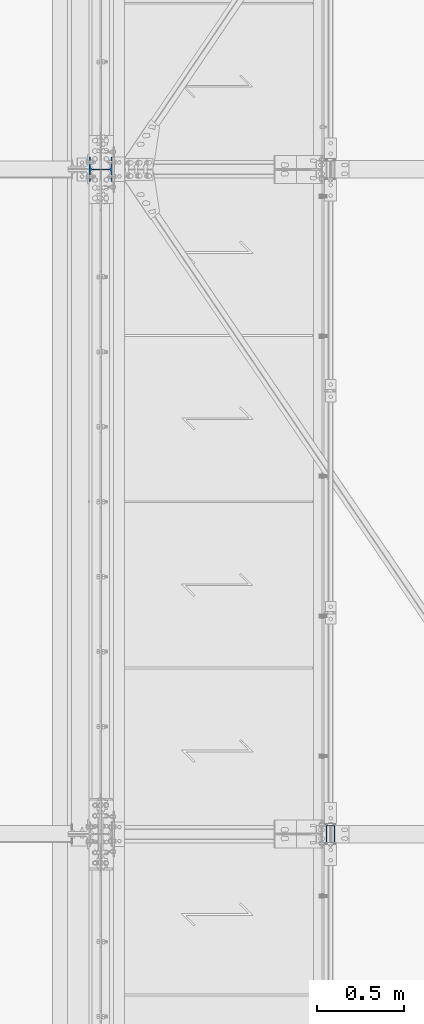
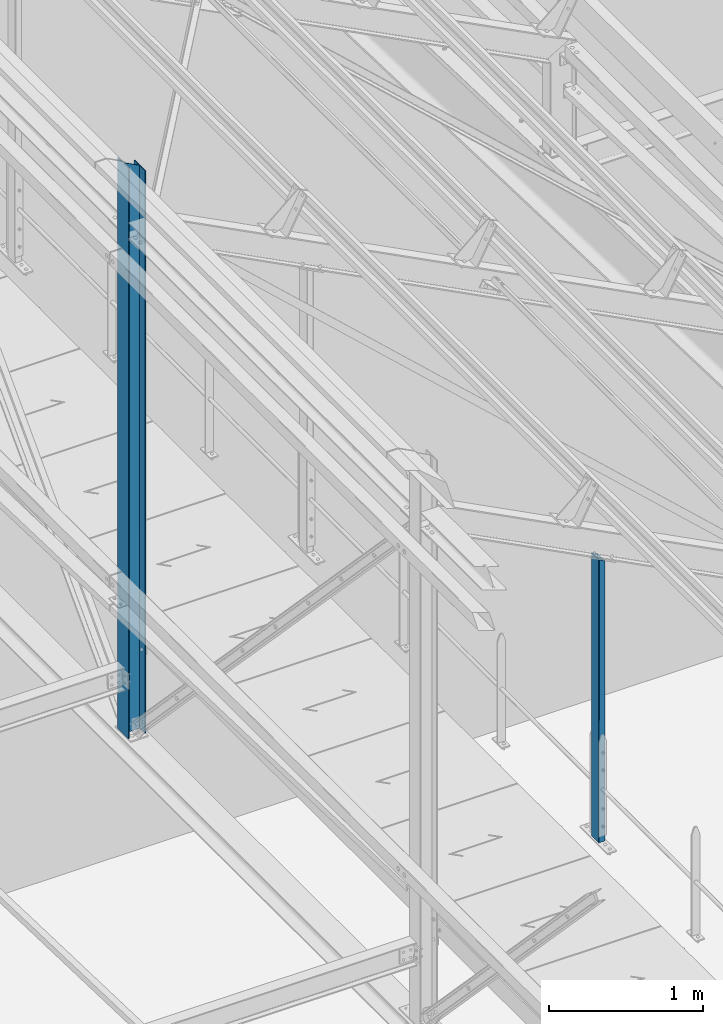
# One storey, part 11 of 362: 2 columns, 2 elements without a shape of their own.
"""IFC2X3 building model written with IfcOpenShell, lengths in millimetres."""

import ifcopenshell
import ifcopenshell.guid

model = None  # the IFC model being written
_history = None  # IfcOwnerHistory: only IFC2X3 demands one
_inside = {}  # id of a spatial element -> (the spatial element, [elements in it])
_under = {}  # id of a project, library or spatial element -> (it, [spatial elements below it])
_declared = {}  # id of a project -> (the project, [libraries it declares])
_typed = {}  # id of a type object -> (the type object, [elements of that type])
_made_of = {}  # id of a material, layer set ... -> (it, [elements and type objects made of it])


def new_model(schema):
    """Start an empty IFC model of exactly this schema.

    Asked for "IFC4X3", IfcOpenShell would pick the latest addendum, in which some entities
    have other attributes; the version numbers below select the first issue.
    IFC2X3 requires an IfcOwnerHistory on every rooted entity: one is made here for all.
    """
    global model, _history
    if schema == "IFC4X3":
        model = ifcopenshell.file(schema_version=(4, 3, 0, 0))
    else:
        model = ifcopenshell.file(schema=schema)
    _inside.clear()
    _under.clear()
    _declared.clear()
    _typed.clear()
    _made_of.clear()
    _history = None
    if model.schema == "IFC2X3":
        org = make("IfcOrganization", Name="unknown")
        user = make(
            "IfcPersonAndOrganization",
            ThePerson=make("IfcPerson", FamilyName="unknown"),
            TheOrganization=org,
        )
        app = make(
            "IfcApplication",
            ApplicationDeveloper=org,
            Version="unknown",
            ApplicationFullName="unknown",
            ApplicationIdentifier="unknown",
        )
        _history = make(
            "IfcOwnerHistory",
            OwningUser=user,
            OwningApplication=app,
            ChangeAction="ADDED",
            CreationDate=0,
        )
    return model


def make(cls, **values):
    """One entity of the class cls with the attributes given. An attribute that is None is left unset."""
    return model.create_entity(
        cls, **{name: value for name, value in values.items() if value is not None}
    )


def rooted(cls, **values):
    """An entity with a GlobalId (a new one), such as an element, a storey or a relation."""
    return make(cls, GlobalId=ifcopenshell.guid.new(), OwnerHistory=_history, **values)


def si_unit(unit_type, name, prefix=None):
    """IfcSIUnit, for example si_unit("LENGTHUNIT", "METRE", prefix="MILLI")."""
    return make("IfcSIUnit", UnitType=unit_type, Prefix=prefix, Name=name)


def assignment(units):
    """IfcUnitAssignment: the units of a project."""
    return None if units is None else make("IfcUnitAssignment", Units=units)


def point(xyz):
    """IfcCartesianPoint."""
    return None if xyz is None else make("IfcCartesianPoint", Coordinates=xyz)


def direction(xyz):
    """IfcDirection."""
    return None if xyz is None else make("IfcDirection", DirectionRatios=xyz)


def frame(location, z_axis=None, x_axis=None):
    """IfcAxis2Placement3D, a coordinate frame: its origin and axes. An axis left out is left unset."""
    return make(
        "IfcAxis2Placement3D",
        Location=point(location),
        Axis=direction(z_axis),
        RefDirection=direction(x_axis),
    )


def frame_2d(location, x_axis=None):
    """IfcAxis2Placement2D, a coordinate frame in the plane: its origin and x axis."""
    return make(
        "IfcAxis2Placement2D", Location=point(location), RefDirection=direction(x_axis)
    )


def origin_with_axes():
    """The frame at (0, 0, 0) with the z axis (0, 0, 1) and the x axis (1, 0, 0) written out."""
    return frame((0.0, 0.0, 0.0), z_axis=(0.0, 0.0, 1.0), x_axis=(1.0, 0.0, 0.0))


def origin_2d_with_axis():
    """The frame at (0, 0) in the plane with the x axis (1, 0) written out."""
    return frame_2d((0.0, 0.0), x_axis=(1.0, 0.0))


def place(relative_to, where):
    """IfcLocalPlacement: puts the frame where relative to a parent placement (None: the world)."""
    return make(
        "IfcLocalPlacement", PlacementRelTo=relative_to, RelativePlacement=where
    )


def context(
    kind, dimensions, precision=None, world=None, true_north=None, identifier=None
):
    """IfcGeometricRepresentationContext, for example the 3D "Model" context."""
    return make(
        "IfcGeometricRepresentationContext",
        ContextIdentifier=identifier,
        ContextType=kind,
        CoordinateSpaceDimension=dimensions,
        Precision=precision,
        WorldCoordinateSystem=world,
        TrueNorth=true_north,
    )


def subcontext(parent, identifier, kind, view, scale=None):
    """IfcGeometricRepresentationSubContext, for example "Body" below "Model"."""
    return make(
        "IfcGeometricRepresentationSubContext",
        ContextIdentifier=identifier,
        ContextType=kind,
        ParentContext=parent,
        TargetScale=scale,
        TargetView=view,
    )


def project(units=None, contexts=None):
    """IfcProject with its units and contexts."""
    return rooted(
        "IfcProject",
        Name="project",
        RepresentationContexts=contexts,
        UnitsInContext=assignment(units),
    )


def spatial(cls, under=None, at=None, **own):
    """A site, building, storey or space (cls), placed at a placement, below another one or the project."""
    s = rooted(cls, ObjectPlacement=at, **own)
    if under is not None:
        _under.setdefault(under.id(), (under, []))[1].append(s)
    return s


def profile(cls, at=None, kind="AREA", **sizes):
    """A parametric profile (cls). Its sizes go by their IFC names, for example OverallWidth=200.0."""
    return make(cls, ProfileType=kind, Position=at, **sizes)


def hollow_rectangle(**sizes):
    """IfcRectangleHollowProfileDef."""
    return profile("IfcRectangleHollowProfileDef", **sizes)


def i_section(**sizes):
    """IfcIShapeProfileDef."""
    return profile("IfcIShapeProfileDef", **sizes)


def extrude(swept, where, along, depth):
    """IfcExtrudedAreaSolid: the profile swept, set in the frame where, extruded along a direction by depth."""
    return make(
        "IfcExtrudedAreaSolid",
        SweptArea=swept,
        Position=where,
        ExtrudedDirection=direction(along),
        Depth=depth,
    )


def clip(a, b, op="DIFFERENCE"):
    """IfcBooleanClippingResult: the solid a cut by the half space b."""
    return make(
        "IfcBooleanClippingResult", Operator=op, FirstOperand=a, SecondOperand=b
    )


def halfspace(plane, agree):
    """IfcHalfSpaceSolid: all space on one side of the plane z = 0 of the frame plane."""
    return make(
        "IfcHalfSpaceSolid",
        BaseSurface=make("IfcPlane", Position=plane),
        AgreementFlag=agree,
    )


def shape(context_of_items, identifier, shape_type, items):
    """IfcShapeRepresentation: the items that make up one representation, for example the "Body"."""
    return make(
        "IfcShapeRepresentation",
        ContextOfItems=context_of_items,
        RepresentationIdentifier=identifier,
        RepresentationType=shape_type,
        Items=items,
    )


def material(Name=None, Category=None):
    """IfcMaterial."""
    return make("IfcMaterial", Name=Name, Category=Category)


def made_of(thing, what):
    """Note that an element or type object is made of a material, layer set ...; save() writes the relation."""
    if what is not None:
        _made_of.setdefault(what.id(), (what, []))[1].append(thing)
    return thing


def type_object(cls, material=None, **own):
    """A type object (cls), such as IfcWallType, which elements share."""
    return made_of(rooted(cls, **own), material)


def element(
    cls,
    number,
    at=None,
    inside=None,
    cuts=None,
    type_object=None,
    material=None,
    context=None,
    identifier="Body",
    shape_type=None,
    held_by="IfcProductDefinitionShape",
    body=None,
    shapes=None,
    **own,
):
    """One element of the class cls, such as IfcWall. Its Tag is "e" and its number.

    at: its placement. inside: the storey or other place that contains it. cuts: it is an
    opening in that element (IfcRelVoidsElement). A single representation is given by context,
    identifier, shape_type and body (its items); several are given by shapes. held_by: the class
    of the entity that holds the representations. save() writes the other relations.
    """
    e = rooted(cls, Tag="e%d" % number, ObjectPlacement=at, **own)
    if body is not None:
        shapes = [shape(context, identifier, shape_type, body)]
    if shapes is not None:
        e.Representation = make(held_by, Representations=shapes)
    if inside is not None:
        _inside.setdefault(inside.id(), (inside, []))[1].append(e)
    if cuts is not None:
        rooted(
            "IfcRelVoidsElement", RelatingBuildingElement=cuts, RelatedOpeningElement=e
        )
    if type_object is not None:
        _typed.setdefault(type_object.id(), (type_object, []))[1].append(e)
    return made_of(e, material)


def aggregate(whole, parts):
    """IfcRelAggregates: a whole, such as a stair, and the parts it consists of."""
    return rooted("IfcRelAggregates", RelatingObject=whole, RelatedObjects=parts)


def save(model, path):
    """Write the relations noted so far, then the file.

    IfcRelAggregates (storeys below a building ...), IfcRelContainedInSpatialStructure (elements
    in a storey), IfcRelDefinesByType, IfcRelAssociatesMaterial and IfcRelDeclares: one each for
    every whole, place, type object, material and project.
    """
    for whole, parts in _under.values():
        aggregate(whole, parts)
    for where, things in _inside.values():
        rooted(
            "IfcRelContainedInSpatialStructure",
            RelatedElements=things,
            RelatingStructure=where,
        )
    for kind, things in _typed.values():
        rooted("IfcRelDefinesByType", RelatedObjects=things, RelatingType=kind)
    for what, things in _made_of.values():
        rooted("IfcRelAssociatesMaterial", RelatedObjects=things, RelatingMaterial=what)
    for by, libraries in _declared.values():
        rooted("IfcRelDeclares", RelatingContext=by, RelatedDefinitions=libraries)
    model.write(path)


model = new_model("IFC2X3")

# Units and contexts
model_context = context("Model", 3, precision=1e-05, world=origin_with_axes())
body_context = subcontext(model_context, "Body", "Model", "MODEL_VIEW")
ifc_project = project(units=[si_unit("LENGTHUNIT", "METRE", prefix="MILLI"), si_unit("AREAUNIT", "SQUARE_METRE"), si_unit("VOLUMEUNIT", "CUBIC_METRE"), si_unit("MASSUNIT", "GRAM", prefix="KILO"), si_unit("TIMEUNIT", "SECOND"), si_unit("PLANEANGLEUNIT", "RADIAN"), si_unit("SOLIDANGLEUNIT", "STERADIAN"), si_unit("THERMODYNAMICTEMPERATUREUNIT", "DEGREE_CELSIUS"), si_unit("LUMINOUSINTENSITYUNIT", "LUMEN")], contexts=[model_context])

# Site, building, storey
site_placement = place(None, origin_with_axes())
site = spatial("IfcSite", under=ifc_project, at=site_placement, Name="Undefined", CompositionType="ELEMENT")
building_placement = place(site_placement, origin_with_axes())
building = spatial("IfcBuilding", under=site, at=building_placement, Name="Undefined", CompositionType="ELEMENT")
storey_placement = place(building_placement, origin_with_axes())
storey = spatial("IfcBuildingStorey", under=building, at=storey_placement, Name="Undefined", CompositionType="ELEMENT", Elevation=0.0)

# Assembly, column
assembly_1_placement = place(storey_placement, origin_with_axes())
assembly_1 = element("IfcElementAssembly", 1, at=assembly_1_placement, inside=storey, Name="MONTANT", AssemblyPlace="NOTDEFINED", PredefinedType="NOTDEFINED")
ifc_material_1 = material(Name="Undefined/S275-E28")
column_type_1 = type_object("IfcColumnType", Name="HEA140", PredefinedType="NOTDEFINED")
column_1_placement = place(assembly_1_placement, frame((23470.0, 7600.0, 7260.0), z_axis=(0.0, 0.0, 1.0), x_axis=(-1.0, 0.0, 0.0)))
column_1 = element("IfcColumn", 2, at=column_1_placement, type_object=column_type_1, material=ifc_material_1, Name="MONTANT", ObjectType="HEA140", context=body_context, shape_type="Clipping", body=[
    clip(extrude(i_section(OverallWidth=140.0, OverallDepth=133.0, WebThickness=5.5, FlangeThickness=8.5, FilletRadius=12.0, at=origin_2d_with_axis()), frame((0.0, 0.0, 4551.40988027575), z_axis=(0.0, 0.0, -1.0), x_axis=(0.0, 1.0, 0.0)), (0.0, 0.0, 1.0), 4551.41), halfspace(frame((-66.5, 70.0, 4471.22657322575), z_axis=(-0.460093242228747, -7.1029704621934e-09, 0.887870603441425), x_axis=(0.887870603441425, 0.0, 0.460093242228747)), False)),
])
aggregate(assembly_1, [column_1])

assembly_2_placement = place(storey_placement, origin_with_axes())
assembly_2 = element("IfcElementAssembly", 3, at=assembly_2_placement, inside=storey, AssemblyPlace="NOTDEFINED", PredefinedType="NOTDEFINED")
ifc_material_2 = material(Name="Undefined/S235-E24")
column_type_2 = type_object("IfcColumnType", Name="TUBE-R-100*50*3", PredefinedType="NOTDEFINED")
column_2_placement = place(assembly_2_placement, frame((24783.9916006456, 3800.00010621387, 8249.99999999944), z_axis=(0.0, 0.0, 1.0), x_axis=(0.0, -1.0, 0.0)))
column_2 = element("IfcColumn", 4, at=column_2_placement, type_object=column_type_2, material=ifc_material_2, Name="SUSPENTE", ObjectType="TUBE-R-100*50*3", context=body_context, shape_type="Clipping", body=[
    clip(extrude(hollow_rectangle(XDim=50.0, YDim=100.0, WallThickness=3.0, InnerFilletRadius=3.0, OuterFilletRadius=6.0, at=origin_2d_with_axis()), frame((0.0, 0.0, 2250.9289509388), z_axis=(0.0, 0.0, -1.0), x_axis=(0.0, 1.0, 0.0)), (0.0, 0.0, 1.0), 2250.93), halfspace(frame((-1.97960616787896e-07, -50.6315018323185, 2264.08160073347), z_axis=(4.17299179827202e-08, -0.460093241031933, -0.887870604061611), x_axis=(1.0, 0.0, 0.0)), True)),
])
aggregate(assembly_2, [column_2])

save(model, "model.ifc")
